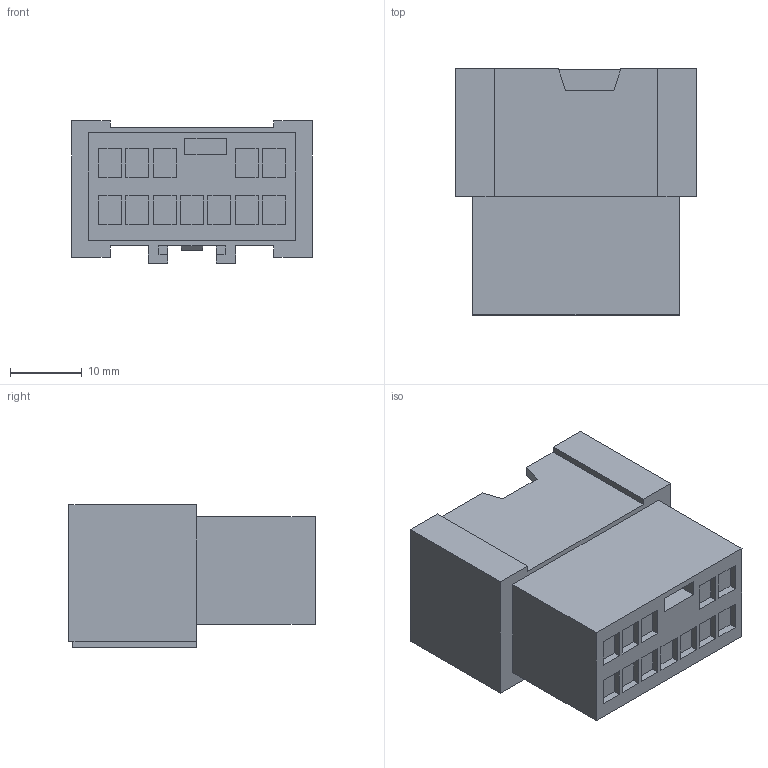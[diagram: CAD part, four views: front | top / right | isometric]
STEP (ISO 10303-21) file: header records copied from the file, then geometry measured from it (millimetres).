
FILE_DESCRIPTION(('CATIA V5 STEP','CAx-IF Rec.Pracs.--- Model Styling and Organization---1.4--- 2014-01-23'),'2;1');
FILE_NAME('\\fss02.ad.sws.co.jp\fs100016\第3設計部\共有\コネクタ第1Gr\【91】一時保管\★カタログ用参考資料\簡易３D\stp_送付用\6098-6984.stp','2024-10-07T06:28:42+00:00',('none'),('none'),'CATIA Version 5-6 Release 2018 SP4','CATIA V5 STEP AP214','none');
FILE_SCHEMA(('AUTOMOTIVE_DESIGN { 1 0 10303 214 1 1 1 1 }'));
Length unit declared in the file: millimetre
Products named in the file (1): 6098-6984
Bounding box: 33.5 x 34.25 x 19.8 mm (x, y, z)
Volume: 10688.9 mm3; surface area: 7192.3 mm2
Topology: 1 solids, 1 shells, 199 faces, 514 edges, 342 vertices
Faces by surface type: plane 199
Entity records: 5428 total; most frequent: ORIENTED_EDGE 1028, CARTESIAN_POINT 950, DIRECTION 700, VECTOR 514, EDGE_CURVE 514, LINE 514, VERTEX_POINT 342, EDGE_LOOP 226
